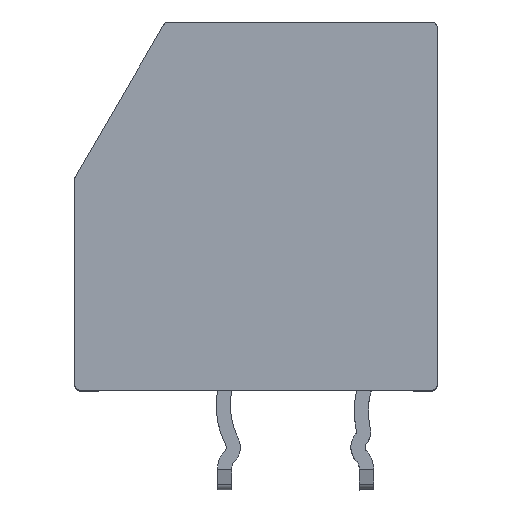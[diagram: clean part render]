
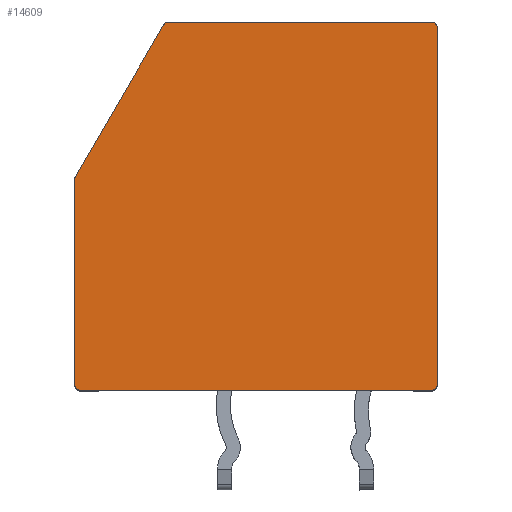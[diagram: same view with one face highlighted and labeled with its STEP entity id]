
A CAD part, top view. The second image highlights one B-rep face of the part: STEP entity #14609.
In plain terms, the highlighted planar face has unit normal (0, 0, 1).
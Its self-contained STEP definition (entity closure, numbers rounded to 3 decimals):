
#375=DIRECTION('',(0.,-1.,0.));
#376=VECTOR('',#375,7.246);
#377=CARTESIAN_POINT('',(-12.8,7.446,17.));
#378=LINE('',#377,#376);
#1046=DIRECTION('',(-1.,0.,0.));
#1047=VECTOR('',#1046,12.4);
#1048=CARTESIAN_POINT('',(-0.2,0.,17.));
#1049=LINE('',#1048,#1047);
#1050=CARTESIAN_POINT('',(-12.6,0.2,17.));
#1051=DIRECTION('',(0.,0.,-1.));
#1052=DIRECTION('',(0.,-1.,0.));
#1053=AXIS2_PLACEMENT_3D('',#1050,#1051,#1052);
#1055=CARTESIAN_POINT('',(-12.6,7.446,17.));
#1056=DIRECTION('',(0.,0.,-1.));
#1057=DIRECTION('',(-1.,0.,0.));
#1058=AXIS2_PLACEMENT_3D('',#1055,#1056,#1057);
#1060=DIRECTION('',(0.503,0.864,0.));
#1061=VECTOR('',#1060,6.194);
#1062=CARTESIAN_POINT('',(-12.773,7.547,17.));
#1063=LINE('',#1062,#1061);
#1064=CARTESIAN_POINT('',(-9.485,12.8,17.));
#1065=DIRECTION('',(0.,0.,-1.));
#1066=DIRECTION('',(-0.864,0.503,0.));
#1067=AXIS2_PLACEMENT_3D('',#1064,#1065,#1066);
#1069=CARTESIAN_POINT('',(-0.2,12.8,17.));
#1070=DIRECTION('',(0.,0.,-1.));
#1071=DIRECTION('',(0.,1.,0.));
#1072=AXIS2_PLACEMENT_3D('',#1069,#1070,#1071);
#1074=CARTESIAN_POINT('',(-0.2,0.2,17.));
#1075=DIRECTION('',(0.,0.,-1.));
#1076=DIRECTION('',(1.,0.,0.));
#1077=AXIS2_PLACEMENT_3D('',#1074,#1075,#1076);
#1123=DIRECTION('',(-1.,0.,0.));
#1124=VECTOR('',#1123,9.285);
#1125=CARTESIAN_POINT('',(-0.2,13.,17.));
#1126=LINE('',#1125,#1124);
#4001=DIRECTION('',(0.,1.,0.));
#4002=VECTOR('',#4001,12.6);
#4003=CARTESIAN_POINT('',(0.,0.2,17.));
#4004=LINE('',#4003,#4002);
#11905=CARTESIAN_POINT('',(-12.6,0.,17.));
#11907=VERTEX_POINT('',#11905);
#11909=CARTESIAN_POINT('',(-0.2,0.,17.));
#11910=VERTEX_POINT('',#11909);
#11989=CARTESIAN_POINT('',(0.,0.2,17.));
#11990=VERTEX_POINT('',#11989);
#11991=CARTESIAN_POINT('',(-12.8,0.2,17.));
#11992=VERTEX_POINT('',#11991);
#11993=CARTESIAN_POINT('',(-12.8,7.446,17.));
#11994=VERTEX_POINT('',#11993);
#11995=CARTESIAN_POINT('',(-12.773,7.547,17.));
#11996=VERTEX_POINT('',#11995);
#11997=CARTESIAN_POINT('',(-9.658,12.901,17.));
#11998=VERTEX_POINT('',#11997);
#11999=CARTESIAN_POINT('',(-9.485,13.,17.));
#12000=VERTEX_POINT('',#11999);
#12001=CARTESIAN_POINT('',(-0.2,13.,17.));
#12002=VERTEX_POINT('',#12001);
#12003=CARTESIAN_POINT('',(0.,12.8,17.));
#12004=VERTEX_POINT('',#12003);
#14585=CARTESIAN_POINT('',(-6.4,6.5,17.));
#14586=DIRECTION('',(0.,0.,1.));
#14587=DIRECTION('',(1.,0.,0.));
#14588=AXIS2_PLACEMENT_3D('',#14585,#14586,#14587);
#14589=PLANE('',#14588);
#14590=ORIENTED_EDGE('',*,*,#14280,.T.);
#14591=ORIENTED_EDGE('',*,*,#14579,.T.);
#14592=ORIENTED_EDGE('',*,*,#13648,.F.);
#14594=ORIENTED_EDGE('',*,*,#14593,.T.);
#14596=ORIENTED_EDGE('',*,*,#14595,.T.);
#14598=ORIENTED_EDGE('',*,*,#14597,.T.);
#14600=ORIENTED_EDGE('',*,*,#14599,.F.);
#14602=ORIENTED_EDGE('',*,*,#14601,.T.);
#14604=ORIENTED_EDGE('',*,*,#14603,.F.);
#14606=ORIENTED_EDGE('',*,*,#14605,.T.);
#14607=EDGE_LOOP('',(#14590,#14591,#14592,#14594,#14596,#14598,#14600,#14602,
#14604,#14606));
#14608=FACE_OUTER_BOUND('',#14607,.F.);
#14609=ADVANCED_FACE('',(#14608),#14589,.T.);
#1054=CIRCLE('',#1053,0.2);
#1059=CIRCLE('',#1058,0.2);
#1068=CIRCLE('',#1067,0.2);
#1073=CIRCLE('',#1072,0.2);
#1078=CIRCLE('',#1077,0.2);
#13648=EDGE_CURVE('',#11994,#11992,#378,.T.);
#14280=EDGE_CURVE('',#11910,#11907,#1049,.T.);
#14579=EDGE_CURVE('',#11907,#11992,#1054,.T.);
#14593=EDGE_CURVE('',#11994,#11996,#1059,.T.);
#14595=EDGE_CURVE('',#11996,#11998,#1063,.T.);
#14597=EDGE_CURVE('',#11998,#12000,#1068,.T.);
#14599=EDGE_CURVE('',#12002,#12000,#1126,.T.);
#14601=EDGE_CURVE('',#12002,#12004,#1073,.T.);
#14603=EDGE_CURVE('',#11990,#12004,#4004,.T.);
#14605=EDGE_CURVE('',#11990,#11910,#1078,.T.);
